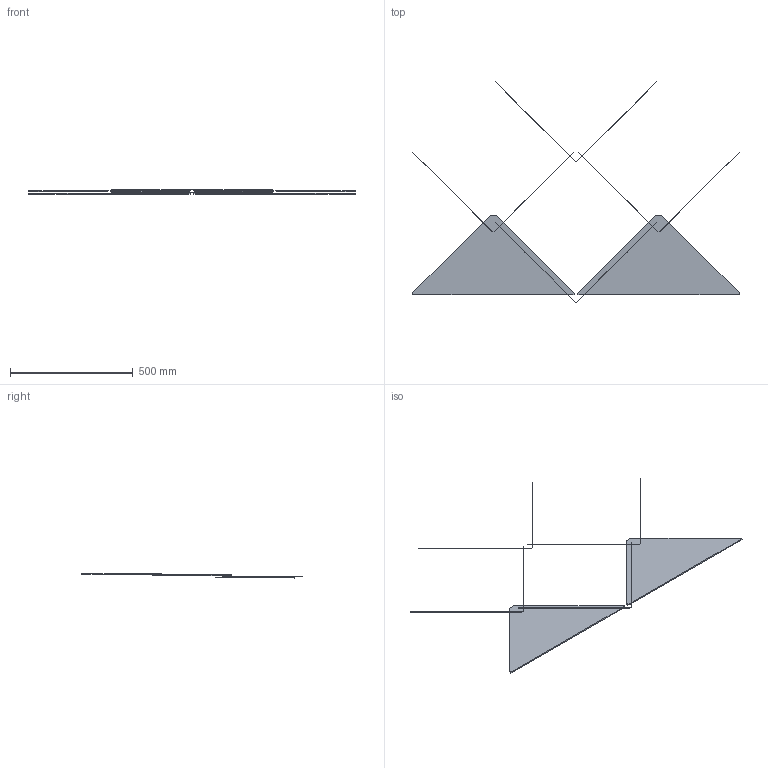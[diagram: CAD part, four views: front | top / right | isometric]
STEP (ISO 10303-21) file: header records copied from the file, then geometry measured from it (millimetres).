
FILE_DESCRIPTION(/* description */ (''),/* implementation_level */ '2;1');
FILE_NAME(/* name */ 'PREFA_~1',/* time_stamp */ '2020-07-21T11:04:19+02:00',/* author */ (''),/* organization */ (''),/* preprocessor_version */ 'ST-DEVELOPER v15',/* originating_system */ '',/* authorisation */ '');
FILE_SCHEMA (('AUTOMOTIVE_DESIGN'));
Length unit declared in the file: millimetre
Products named in the file (1): Document
Bounding box: 1335.17 x 898.37 x 18.98 mm (x, y, z)
Topology: 0 solids, 24 shells, 24 faces, 146 edges, 150 vertices
Faces by surface type: plane 14, bspline 10
Entity records: 2065 total; most frequent: CARTESIAN_POINT 1019, ORIENTED_EDGE 210, EDGE_CURVE 210, VERTEX_POINT 202, B_SPLINE_CURVE_WITH_KNOTS 200, PRESENTATION_LAYER_ASSIGNMENT 34, SHELL_BASED_SURFACE_MODEL 24, OPEN_SHELL 24
